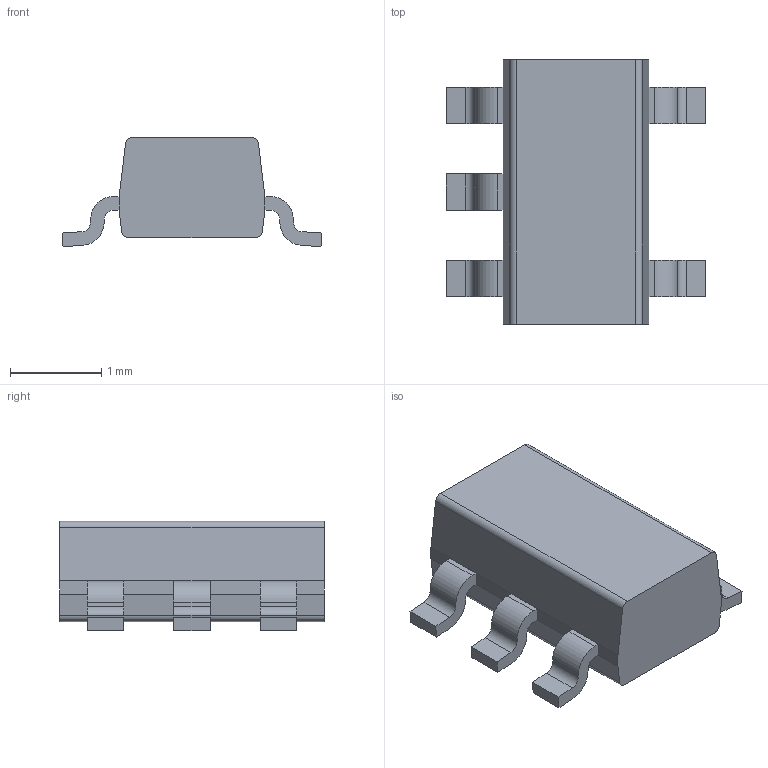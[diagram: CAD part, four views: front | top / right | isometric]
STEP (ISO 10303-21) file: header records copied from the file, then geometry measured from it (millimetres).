
FILE_DESCRIPTION((''),'2;1');
FILE_NAME('DYD0005A_ASM','2026-06-26T10:00:57',('a0412086'),(''),'CREO PARAMETRIC BY PTC INC, 2018500','CREO PARAMETRIC BY PTC INC, 2018500','');
FILE_SCHEMA(('CONFIG_CONTROL_DESIGN','SHAPE_APPEARANCE_LAYERS_GROUPS'));
Length unit declared in the file: millimetre
Products named in the file (4): BODY-SOT; LEAD-SOT; DIEPAD; DYD0005A_ASM
Assembly tree (7 placements, depth 2):
  DYD0005A_ASM
    BODY-SOT
    LEAD-SOT  x5
    DIEPAD
Bounding box: 2.85 x 2.9 x 1.2 mm (x, y, z)
Volume: 5.2 mm3; surface area: 27.9 mm2
Topology: 7 solids, 7 shells, 131 faces, 348 edges, 232 vertices
Faces by surface type: plane 107, cylinder 24
Entity records: 3146 total; most frequent: CARTESIAN_POINT 426, ORIENTED_EDGE 408, DIRECTION 392, PRESENTATION_STYLE_ASSIGNMENT 207, STYLED_ITEM 207, CURVE_STYLE 204, EDGE_CURVE 204, VECTOR 188
